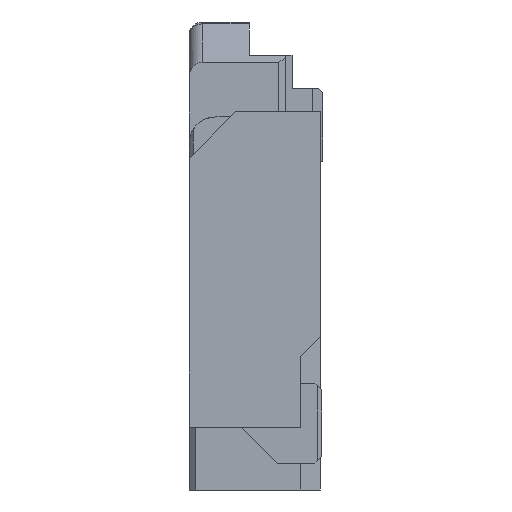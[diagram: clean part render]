
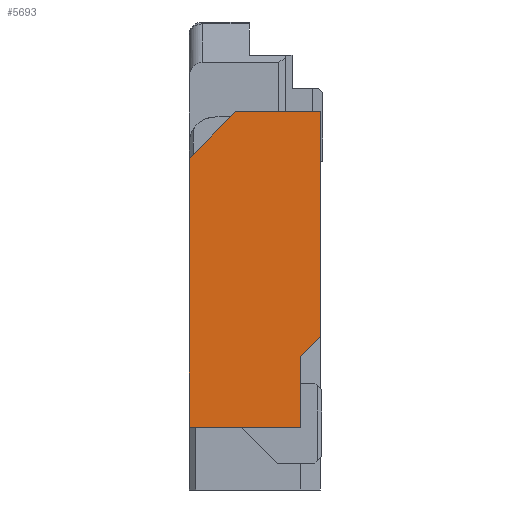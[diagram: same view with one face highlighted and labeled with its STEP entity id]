
A CAD part, left-side view. The second image highlights one B-rep face of the part: STEP entity #5693.
In plain terms, the highlighted planar face has unit normal (-1, 0, 0).
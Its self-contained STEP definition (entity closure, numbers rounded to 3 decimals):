
#14 = VECTOR ( 'NONE', #11288, 1000. ) ;
#67 = VECTOR ( 'NONE', #11300, 1000. ) ;
#238 = VECTOR ( 'NONE', #11290, 1000. ) ;
#239 = VECTOR ( 'NONE', #11297, 1000. ) ;
#286 = VECTOR ( 'NONE', #8797, 1000. ) ;
#790 = VECTOR ( 'NONE', #5201, 1000. ) ;
#807 = VECTOR ( 'NONE', #5143, 1000. ) ;
#950 = CARTESIAN_POINT ( 'NONE',  ( -2.85, 0.02, -0.17 ) ) ;
#993 = CARTESIAN_POINT ( 'NONE',  ( -2.85, 0.02, -1.85 ) ) ;
#1000 = CARTESIAN_POINT ( 'NONE',  ( -2.85, 0.65, -0.17 ) ) ;
#1210 = CARTESIAN_POINT ( 'NONE',  ( -2.85, 0.17, -2. ) ) ;
#1599 = CARTESIAN_POINT ( 'NONE',  ( -2.85, 1., -0.52 ) ) ;
#1672 = CARTESIAN_POINT ( 'NONE',  ( -2.85, 1., -2.53 ) ) ;
#1691 = CARTESIAN_POINT ( 'NONE',  ( -2.85, 0.17, -2.53 ) ) ;
#2798 = AXIS2_PLACEMENT_3D ( 'NONE', #10594, #10585, #10583 ) ;
#4089 = EDGE_CURVE ( 'NONE', #6456, #10176, #8816, .T. ) ;
#4132 = EDGE_CURVE ( 'NONE', #9717, #10163, #11307, .T. ) ;
#4161 = EDGE_CURVE ( 'NONE', #6565, #10010, #11302, .T. ) ;
#4162 = EDGE_CURVE ( 'NONE', #6485, #6565, #11299, .T. ) ;
#4163 = EDGE_CURVE ( 'NONE', #6456, #6485, #11295, .T. ) ;
#4779 = EDGE_CURVE ( 'NONE', #10163, #10176, #5207, .T. ) ;
#4785 = EDGE_CURVE ( 'NONE', #10010, #9717, #5166, .T. ) ;
#5143 = DIRECTION ( 'NONE',  ( 0., -1., 0. ) ) ;
#5153 = CARTESIAN_POINT ( 'NONE',  ( -2.85, 0.02, -0.17 ) ) ;
#5166 = LINE ( 'NONE', #5153, #807 ) ;
#5201 = DIRECTION ( 'NONE',  ( 0., 0.707, -0.707 ) ) ;
#5205 = CARTESIAN_POINT ( 'NONE',  ( -2.85, 0.17, -2. ) ) ;
#5207 = LINE ( 'NONE', #5205, #790 ) ;
#5693 = ADVANCED_FACE ( 'NONE', ( #10589 ), #10588, .F. ) ;
#6456 = VERTEX_POINT ( 'NONE', #1691 ) ;
#6485 = VERTEX_POINT ( 'NONE', #1672 ) ;
#6565 = VERTEX_POINT ( 'NONE', #1599 ) ;
#6829 = ORIENTED_EDGE ( 'NONE', *, *, #4163, .F. ) ;
#6837 = ORIENTED_EDGE ( 'NONE', *, *, #4089, .T. ) ;
#7280 = ORIENTED_EDGE ( 'NONE', *, *, #4779, .F. ) ;
#7281 = ORIENTED_EDGE ( 'NONE', *, *, #4132, .F. ) ;
#7373 = ORIENTED_EDGE ( 'NONE', *, *, #4162, .F. ) ;
#7375 = ORIENTED_EDGE ( 'NONE', *, *, #4785, .F. ) ;
#7376 = ORIENTED_EDGE ( 'NONE', *, *, #4161, .F. ) ;
#8574 = EDGE_LOOP ( 'NONE', ( #7280, #7281, #7375, #7376, #7373, #6829, #6837 ) ) ;
#8797 = DIRECTION ( 'NONE',  ( 0., 0., 1. ) ) ;
#8802 = CARTESIAN_POINT ( 'NONE',  ( -2.85, 0.17, -3. ) ) ;
#8816 = LINE ( 'NONE', #8802, #286 ) ;
#9717 = VERTEX_POINT ( 'NONE', #950 ) ;
#10010 = VERTEX_POINT ( 'NONE', #1000 ) ;
#10163 = VERTEX_POINT ( 'NONE', #993 ) ;
#10176 = VERTEX_POINT ( 'NONE', #1210 ) ;
#10583 = DIRECTION ( 'NONE',  ( 0., 0., 1. ) ) ;
#10585 = DIRECTION ( 'NONE',  ( 1., 0., 0. ) ) ;
#10588 = PLANE ( 'NONE',  #2798 ) ;
#10589 = FACE_OUTER_BOUND ( 'NONE', #8574, .T. ) ;
#10594 = CARTESIAN_POINT ( 'NONE',  ( -2.85, 0.53, -3. ) ) ;
#11286 = CARTESIAN_POINT ( 'NONE',  ( -2.85, 0.02, -0.17 ) ) ;
#11288 = DIRECTION ( 'NONE',  ( 0., 0., -1. ) ) ;
#11290 = DIRECTION ( 'NONE',  ( 0., 1., 0. ) ) ;
#11292 = CARTESIAN_POINT ( 'NONE',  ( -2.85, 0.17, -2.53 ) ) ;
#11295 = LINE ( 'NONE', #11292, #238 ) ;
#11297 = DIRECTION ( 'NONE',  ( 0., 0., 1. ) ) ;
#11298 = CARTESIAN_POINT ( 'NONE',  ( -2.85, 1., -1.2 ) ) ;
#11299 = LINE ( 'NONE', #11298, #239 ) ;
#11300 = DIRECTION ( 'NONE',  ( 0., -0.707, 0.707 ) ) ;
#11301 = CARTESIAN_POINT ( 'NONE',  ( -2.85, 1., -0.52 ) ) ;
#11302 = LINE ( 'NONE', #11301, #67 ) ;
#11307 = LINE ( 'NONE', #11286, #14 ) ;
